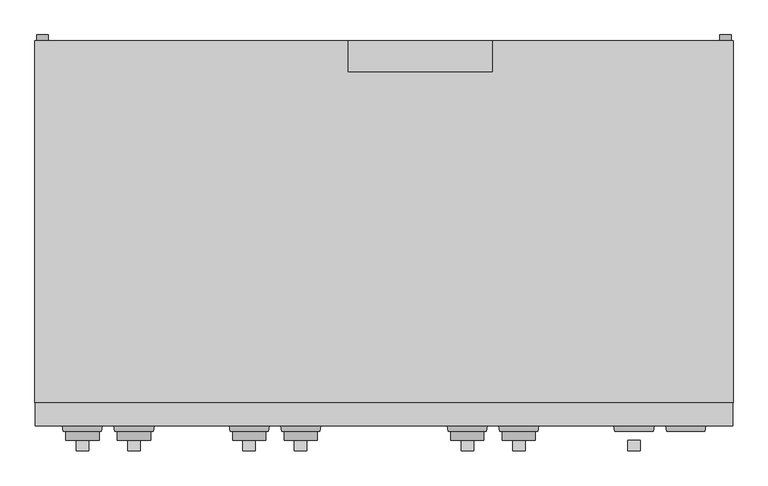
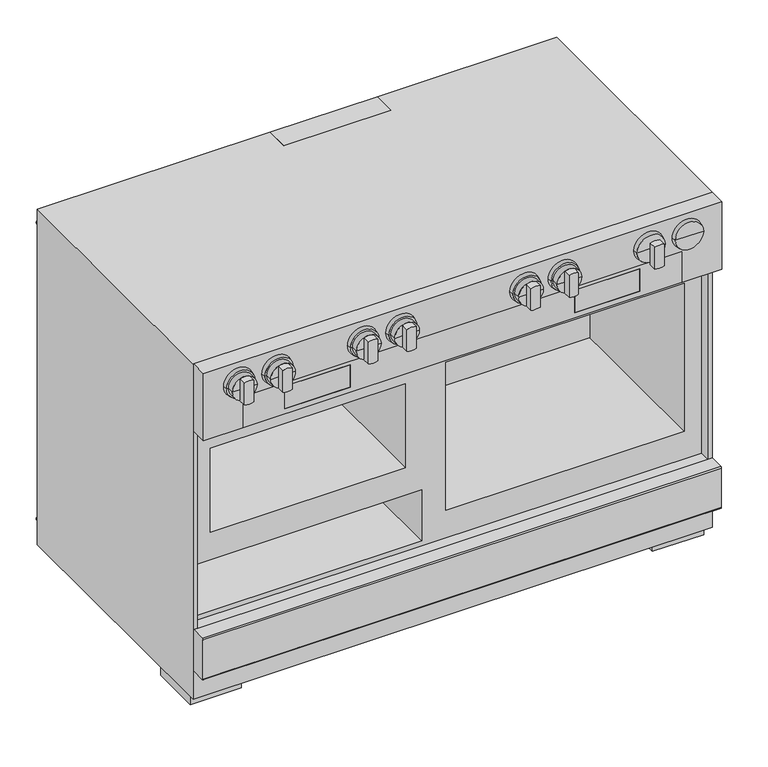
"""IFC4 building model written with IfcOpenShell, lengths in millimetres: proxy geometry, 11791680_USA_HR1954-3LP_EDST-CLS : 25195482_USA_11791680_HR1954-3LP_EDST-CLS."""

from ifc_helpers import new_model, si_unit, point, frame, frame_2d, origin, origin_with_axes, place, context, project, spatial, polyline, circle_curve, trimmed, segment, composite_curve, outline, extrude, faceted_brep, source, transform, mapped, element, save
from ifc_brep_helpers import plane_surface, cylinder_surface, revolved_surface, advanced_brep


def specialty_equipment_3461bd46(model_context):
    return source(origin(), model_context, "Body", "SolidModel", [
        advanced_brep(
        [(235.5, -683.0, 813.0), (264.5, -683.0, 813.0), (206.5, -683.0, 813.0), (206.5, -699.0, 813.0), (264.5, -699.0, 813.0), (235.5, -699.0, 813.0)],
        [
            (0, 1),
            (1, 2, circle_curve(frame((235.5, -683.0, 813.0), z_axis=(0.0, 1.0, 0.0), x_axis=(1.0, 0.0, 0.0)), 29.0)),
            (2, 0),
            (2, 1, circle_curve(frame((235.5, -683.0, 813.0), z_axis=(0.0, 1.0, 0.0), x_axis=(1.0, 0.0, 0.0)), 29.0)),
            (3, 4, circle_curve(frame((235.5, -699.0, 813.0), z_axis=(0.0, -1.0, 0.0), x_axis=(1.0, 0.0, 0.0)), 29.0)),
            (4, 5),
            (5, 3),
            (4, 3, circle_curve(frame((235.5, -699.0, 813.0), z_axis=(0.0, -1.0, 0.0), x_axis=(1.0, 0.0, 0.0)), 29.0)),
            (1, 4),
            (3, 2),
        ],
        [
            plane_surface(frame((235.5, -683.0, 813.0), z_axis=(0.0, 1.0, 0.0), x_axis=(1.0, 0.0, 0.0))),
            plane_surface(frame((235.5, -699.0, 813.0), z_axis=(0.0, -1.0, 0.0), x_axis=(1.0, 0.0, 0.0))),
            cylinder_surface(frame((235.5, 751.3738435, 813.0), z_axis=(0.0, 1.0, 0.0), x_axis=(1.0, 0.0, 0.0)), 29.0),
        ],
        [
            (0, [[1, 2, 3]]),
            (0, [[-3, 4, -1]]),
            (1, [[5, 6, 7]]),
            (1, [[8, -7, -6]]),
            (2, [[-2, 9, -5, 10]]),
            (2, [[-4, -10, -8, -9]]),
        ],
    ),
        advanced_brep(
        [(-235.5, -683.0, 813.0), (-206.5, -683.0, 813.0), (-264.5, -683.0, 813.0), (-264.5, -699.0, 813.0), (-206.5, -699.0, 813.0), (-235.5, -699.0, 813.0)],
        [
            (0, 1),
            (1, 2, circle_curve(frame((-235.5, -683.0, 813.0), z_axis=(0.0, 1.0, 0.0), x_axis=(1.0, 0.0, 0.0)), 29.0)),
            (2, 0),
            (2, 1, circle_curve(frame((-235.5, -683.0, 813.0), z_axis=(0.0, 1.0, 0.0), x_axis=(1.0, 0.0, 0.0)), 29.0)),
            (3, 4, circle_curve(frame((-235.5, -699.0, 813.0), z_axis=(0.0, -1.0, 0.0), x_axis=(1.0, 0.0, 0.0)), 29.0)),
            (4, 5),
            (5, 3),
            (4, 3, circle_curve(frame((-235.5, -699.0, 813.0), z_axis=(0.0, -1.0, 0.0), x_axis=(1.0, 0.0, 0.0)), 29.0)),
            (1, 4),
            (3, 2),
        ],
        [
            plane_surface(frame((-235.5, -683.0, 813.0), z_axis=(0.0, 1.0, 0.0), x_axis=(1.0, 0.0, 0.0))),
            plane_surface(frame((-235.5, -699.0, 813.0), z_axis=(0.0, -1.0, 0.0), x_axis=(1.0, 0.0, 0.0))),
            cylinder_surface(frame((-235.5, 751.3738435, 813.0), z_axis=(0.0, 1.0, 0.0), x_axis=(1.0, 0.0, 0.0)), 29.0),
        ],
        [
            (0, [[1, 2, 3]]),
            (0, [[-3, 4, -1]]),
            (1, [[5, 6, 7]]),
            (1, [[8, -7, -6]]),
            (2, [[-2, 9, -5, 10]]),
            (2, [[-4, -10, -8, -9]]),
        ],
    ),
        advanced_brep(
        [(-436.5, -683.0, 813.0), (-407.5, -683.0, 813.0), (-465.5, -683.0, 813.0), (-465.5, -699.0, 813.0), (-407.5, -699.0, 813.0), (-436.5, -699.0, 813.0)],
        [
            (0, 1),
            (1, 2, circle_curve(frame((-436.5, -683.0, 813.0), z_axis=(0.0, 1.0, 0.0), x_axis=(1.0, 0.0, 0.0)), 29.0)),
            (2, 0),
            (2, 1, circle_curve(frame((-436.5, -683.0, 813.0), z_axis=(0.0, 1.0, 0.0), x_axis=(1.0, 0.0, 0.0)), 29.0)),
            (3, 4, circle_curve(frame((-436.5, -699.0, 813.0), z_axis=(0.0, -1.0, 0.0), x_axis=(1.0, 0.0, 0.0)), 29.0)),
            (4, 5),
            (5, 3),
            (4, 3, circle_curve(frame((-436.5, -699.0, 813.0), z_axis=(0.0, -1.0, 0.0), x_axis=(1.0, 0.0, 0.0)), 29.0)),
            (1, 4),
            (3, 2),
        ],
        [
            plane_surface(frame((-436.5, -683.0, 813.0), z_axis=(0.0, 1.0, 0.0), x_axis=(1.0, 0.0, 0.0))),
            plane_surface(frame((-436.5, -699.0, 813.0), z_axis=(0.0, -1.0, 0.0), x_axis=(1.0, 0.0, 0.0))),
            cylinder_surface(frame((-436.5, 751.3738435, 813.0), z_axis=(0.0, 1.0, 0.0), x_axis=(1.0, 0.0, 0.0)), 29.0),
        ],
        [
            (0, [[1, 2, 3]]),
            (0, [[-3, 4, -1]]),
            (1, [[5, 6, 7]]),
            (1, [[8, -7, -6]]),
            (2, [[-2, 9, -5, 10]]),
            (2, [[-4, -10, -8, -9]]),
        ],
    ),
        advanced_brep(
        [(-526.5, -683.0, 813.0), (-497.5, -683.0, 813.0), (-555.5, -683.0, 813.0), (-555.5, -699.0, 813.0), (-497.5, -699.0, 813.0), (-526.5, -699.0, 813.0)],
        [
            (0, 1),
            (1, 2, circle_curve(frame((-526.5, -683.0, 813.0), z_axis=(0.0, 1.0, 0.0), x_axis=(1.0, 0.0, 0.0)), 29.0)),
            (2, 0),
            (2, 1, circle_curve(frame((-526.5, -683.0, 813.0), z_axis=(0.0, 1.0, 0.0), x_axis=(1.0, 0.0, 0.0)), 29.0)),
            (3, 4, circle_curve(frame((-526.5, -699.0, 813.0), z_axis=(0.0, -1.0, 0.0), x_axis=(1.0, 0.0, 0.0)), 29.0)),
            (4, 5),
            (5, 3),
            (4, 3, circle_curve(frame((-526.5, -699.0, 813.0), z_axis=(0.0, -1.0, 0.0), x_axis=(1.0, 0.0, 0.0)), 29.0)),
            (1, 4),
            (3, 2),
        ],
        [
            plane_surface(frame((-526.5, -683.0, 813.0), z_axis=(0.0, 1.0, 0.0), x_axis=(1.0, 0.0, 0.0))),
            plane_surface(frame((-526.5, -699.0, 813.0), z_axis=(0.0, -1.0, 0.0), x_axis=(1.0, 0.0, 0.0))),
            cylinder_surface(frame((-526.5, 751.3738435, 813.0), z_axis=(0.0, 1.0, 0.0), x_axis=(1.0, 0.0, 0.0)), 29.0),
        ],
        [
            (0, [[1, 2, 3]]),
            (0, [[-3, 4, -1]]),
            (1, [[5, 6, 7]]),
            (1, [[8, -7, -6]]),
            (2, [[-2, 9, -5, 10]]),
            (2, [[-4, -10, -8, -9]]),
        ],
    ),
        extrude(outline(composite_curve([segment(trimmed(circle_curve(frame_2d((813.0, 436.5)), 29.0), [point((786.1671843, 425.5))], [point((786.1671843, 447.5))], False, "CARTESIAN"), True, "CONTINUOUS"), segment(polyline([(786.1671843, 447.5), (839.8328157, 447.5)]), True, "CONTINUOUS"), segment(trimmed(circle_curve(frame_2d((813.0, 436.5)), 29.0), [point((839.8328157, 447.5))], [point((839.8328157, 425.5))], False, "CARTESIAN"), True, "CONTINUOUS"), segment(polyline([(839.8328157, 425.5), (786.1671843, 425.5)]), True, "CONTINUOUS")], self_intersect=False)), frame((0.0, -717.0, 0.0), z_axis=(0.0, 1.0, 0.0), x_axis=(0.0, 0.0, 1.0)), (0.0, 0.0, 1.0), 18.0),
        extrude(outline(composite_curve([segment(polyline([(839.8328157, 224.5), (786.1671843, 224.5)]), True, "CONTINUOUS"), segment(trimmed(circle_curve(frame_2d((813.0, 235.5)), 29.0), [point((786.1671843, 224.5))], [point((786.1671843, 246.5))], False, "CARTESIAN"), True, "CONTINUOUS"), segment(polyline([(786.1671843, 246.5), (839.8328157, 246.5)]), True, "CONTINUOUS"), segment(trimmed(circle_curve(frame_2d((813.0, 235.5)), 29.0), [point((839.8328157, 246.5))], [point((839.8328157, 224.5))], False, "CARTESIAN"), True, "CONTINUOUS")], self_intersect=False)), frame((0.0, -717.0, 0.0), z_axis=(0.0, 1.0, 0.0), x_axis=(0.0, 0.0, 1.0)), (0.0, 0.0, 1.0), 18.0),
        extrude(outline(composite_curve([segment(polyline([(839.8328157, -246.5), (786.1671843, -246.5)]), True, "CONTINUOUS"), segment(trimmed(circle_curve(frame_2d((813.0, -235.5)), 29.0), [point((786.1671843, -246.5))], [point((786.1671843, -224.5))], False, "CARTESIAN"), True, "CONTINUOUS"), segment(polyline([(786.1671843, -224.5), (839.8328157, -224.5)]), True, "CONTINUOUS"), segment(trimmed(circle_curve(frame_2d((813.0, -235.5)), 29.0), [point((839.8328157, -224.5))], [point((839.8328157, -246.5))], False, "CARTESIAN"), True, "CONTINUOUS")], self_intersect=False)), frame((0.0, -717.0, 0.0), z_axis=(0.0, 1.0, 0.0), x_axis=(0.0, 0.0, 1.0)), (0.0, 0.0, 1.0), 18.0),
        extrude(outline(composite_curve([segment(polyline([(839.8328157, -447.5), (786.1671843, -447.5)]), True, "CONTINUOUS"), segment(trimmed(circle_curve(frame_2d((813.0, -436.5)), 29.0), [point((786.1671843, -447.5))], [point((786.1671843, -425.5))], False, "CARTESIAN"), True, "CONTINUOUS"), segment(polyline([(786.1671843, -425.5), (839.8328157, -425.5)]), True, "CONTINUOUS"), segment(trimmed(circle_curve(frame_2d((813.0, -436.5)), 29.0), [point((839.8328157, -425.5))], [point((839.8328157, -447.5))], False, "CARTESIAN"), True, "CONTINUOUS")], self_intersect=False)), frame((0.0, -717.0, 0.0), z_axis=(0.0, 1.0, 0.0), x_axis=(0.0, 0.0, 1.0)), (0.0, 0.0, 1.0), 18.0),
        extrude(outline(composite_curve([segment(polyline([(839.8328157, -537.5), (786.1671843, -537.5)]), True, "CONTINUOUS"), segment(trimmed(circle_curve(frame_2d((813.0, -526.5)), 29.0), [point((786.1671843, -537.5))], [point((786.1671843, -515.5))], False, "CARTESIAN"), True, "CONTINUOUS"), segment(polyline([(786.1671843, -515.5), (839.8328157, -515.5)]), True, "CONTINUOUS"), segment(trimmed(circle_curve(frame_2d((813.0, -526.5)), 29.0), [point((839.8328157, -515.5))], [point((839.8328157, -537.5))], False, "CARTESIAN"), True, "CONTINUOUS")], self_intersect=False)), frame((0.0, -717.0, 0.0), z_axis=(0.0, 1.0, 0.0), x_axis=(0.0, 0.0, 1.0)), (0.0, 0.0, 1.0), 18.0),
        advanced_brep(
        [(145.5, -683.0, 813.0), (174.5, -683.0, 813.0), (116.5, -683.0, 813.0), (116.5, -699.0, 813.0), (174.5, -699.0, 813.0), (145.5, -699.0, 813.0)],
        [
            (0, 1),
            (1, 2, circle_curve(frame((145.5, -683.0, 813.0), z_axis=(0.0, 1.0, 0.0), x_axis=(1.0, 0.0, 0.0)), 29.0)),
            (2, 0),
            (2, 1, circle_curve(frame((145.5, -683.0, 813.0), z_axis=(0.0, 1.0, 0.0), x_axis=(1.0, 0.0, 0.0)), 29.0)),
            (3, 4, circle_curve(frame((145.5, -699.0, 813.0), z_axis=(0.0, -1.0, 0.0), x_axis=(1.0, 0.0, 0.0)), 29.0)),
            (4, 5),
            (5, 3),
            (4, 3, circle_curve(frame((145.5, -699.0, 813.0), z_axis=(0.0, -1.0, 0.0), x_axis=(1.0, 0.0, 0.0)), 29.0)),
            (1, 4),
            (3, 2),
        ],
        [
            plane_surface(frame((145.5, -683.0, 813.0), z_axis=(0.0, 1.0, 0.0), x_axis=(1.0, 0.0, 0.0))),
            plane_surface(frame((145.5, -699.0, 813.0), z_axis=(0.0, -1.0, 0.0), x_axis=(1.0, 0.0, 0.0))),
            cylinder_surface(frame((145.5, 751.3738435, 813.0), z_axis=(0.0, 1.0, 0.0), x_axis=(1.0, 0.0, 0.0)), 29.0),
        ],
        [
            (0, [[1, 2, 3]]),
            (0, [[-3, 4, -1]]),
            (1, [[5, 6, 7]]),
            (1, [[8, -7, -6]]),
            (2, [[-2, 9, -5, 10]]),
            (2, [[-4, -10, -8, -9]]),
        ],
    ),
        advanced_brep(
        [(-145.5, -683.0, 813.0), (-116.5, -683.0, 813.0), (-174.5, -683.0, 813.0), (-174.5, -699.0, 813.0), (-116.5, -699.0, 813.0), (-145.5, -699.0, 813.0)],
        [
            (0, 1),
            (1, 2, circle_curve(frame((-145.5, -683.0, 813.0), z_axis=(0.0, 1.0, 0.0), x_axis=(1.0, 0.0, 0.0)), 29.0)),
            (2, 0),
            (2, 1, circle_curve(frame((-145.5, -683.0, 813.0), z_axis=(0.0, 1.0, 0.0), x_axis=(1.0, 0.0, 0.0)), 29.0)),
            (3, 4, circle_curve(frame((-145.5, -699.0, 813.0), z_axis=(0.0, -1.0, 0.0), x_axis=(1.0, 0.0, 0.0)), 29.0)),
            (4, 5),
            (5, 3),
            (4, 3, circle_curve(frame((-145.5, -699.0, 813.0), z_axis=(0.0, -1.0, 0.0), x_axis=(1.0, 0.0, 0.0)), 29.0)),
            (1, 4),
            (3, 2),
        ],
        [
            plane_surface(frame((-145.5, -683.0, 813.0), z_axis=(0.0, 1.0, 0.0), x_axis=(1.0, 0.0, 0.0))),
            plane_surface(frame((-145.5, -699.0, 813.0), z_axis=(0.0, -1.0, 0.0), x_axis=(1.0, 0.0, 0.0))),
            cylinder_surface(frame((-145.5, 751.3738435, 813.0), z_axis=(0.0, 1.0, 0.0), x_axis=(1.0, 0.0, 0.0)), 29.0),
        ],
        [
            (0, [[1, 2, 3]]),
            (0, [[-3, 4, -1]]),
            (1, [[5, 6, 7]]),
            (1, [[8, -7, -6]]),
            (2, [[-2, 9, -5, 10]]),
            (2, [[-4, -10, -8, -9]]),
        ],
    ),
        extrude(outline(composite_curve([segment(polyline([(839.8328157, -156.5), (786.1671843, -156.5)]), True, "CONTINUOUS"), segment(trimmed(circle_curve(frame_2d((813.0, -145.5)), 29.0), [point((786.1671843, -156.5))], [point((786.1671843, -134.5))], False, "CARTESIAN"), True, "CONTINUOUS"), segment(polyline([(786.1671843, -134.5), (839.8328157, -134.5)]), True, "CONTINUOUS"), segment(trimmed(circle_curve(frame_2d((813.0, -145.5)), 29.0), [point((839.8328157, -134.5))], [point((839.8328157, -156.5))], False, "CARTESIAN"), True, "CONTINUOUS")], self_intersect=False)), frame((0.0, -717.0, 0.0), z_axis=(0.0, 1.0, 0.0), x_axis=(0.0, 0.0, 1.0)), (0.0, 0.0, 1.0), 18.0),
        extrude(outline(composite_curve([segment(polyline([(839.8328157, 134.5), (786.1671843, 134.5)]), True, "CONTINUOUS"), segment(trimmed(circle_curve(frame_2d((813.0, 145.5)), 29.0), [point((786.1671843, 134.5))], [point((786.1671843, 156.5))], False, "CARTESIAN"), True, "CONTINUOUS"), segment(polyline([(786.1671843, 156.5), (839.8328157, 156.5)]), True, "CONTINUOUS"), segment(trimmed(circle_curve(frame_2d((813.0, 145.5)), 29.0), [point((839.8328157, 156.5))], [point((839.8328157, 134.5))], False, "CARTESIAN"), True, "CONTINUOUS")], self_intersect=False)), frame((0.0, -717.0, 0.0), z_axis=(0.0, 1.0, 0.0), x_axis=(0.0, 0.0, 1.0)), (0.0, 0.0, 1.0), 18.0),
        advanced_brep(
        [(493.2632698, -683.0, 813.0), (559.7367302, -683.0, 813.0), (526.5, -683.0, 813.0), (491.5, -673.0, 813.0), (561.5, -673.0, 813.0), (526.5, -673.0, 813.0)],
        [
            (0, 1, circle_curve(frame((526.5, -683.0, 813.0), z_axis=(0.0, -1.0, 0.0), x_axis=(1.0, 0.0, 0.0)), 33.2367302)),
            (1, 2),
            (2, 0),
            (1, 0, circle_curve(frame((526.5, -683.0, 813.0), z_axis=(0.0, -1.0, 0.0), x_axis=(1.0, 0.0, 0.0)), 33.2367302)),
            (3, 4, circle_curve(frame((526.5, -673.0, 813.0), z_axis=(0.0, -1.0, 0.0), x_axis=(1.0, 0.0, 0.0)), 35.0)),
            (4, 1),
            (0, 3),
            (4, 3, circle_curve(frame((526.5, -673.0, 813.0), z_axis=(0.0, -1.0, 0.0), x_axis=(1.0, 0.0, 0.0)), 35.0)),
            (5, 4),
            (3, 5),
        ],
        [
            plane_surface(frame((526.5, -683.0, 813.0), z_axis=(0.0, -1.0, 0.0), x_axis=(1.0, 0.0, 0.0))),
            revolved_surface(polyline([(559.7367302, -683.0, 813.0), (561.5, -673.0, 813.0)]), (526.5, 751.3738435, 813.0), (0.0, 1.0, 0.0)),
            plane_surface(frame((526.5, -673.0, 813.0), z_axis=(0.0, 1.0, 0.0), x_axis=(1.0, 0.0, 0.0))),
        ],
        [
            (0, [[1, 2, 3]]),
            (0, [[4, -3, -2]]),
            (1, [[5, 6, -1, 7]]),
            (1, [[8, -7, -4, -6]]),
            (2, [[9, -5, 10]]),
            (2, [[-10, -8, -9]]),
        ],
    ),
        advanced_brep(
        [(403.2632698, -683.0, 813.0), (469.7367302, -683.0, 813.0), (436.5, -683.0, 813.0), (401.5, -673.0, 813.0), (471.5, -673.0, 813.0), (436.5, -673.0, 813.0)],
        [
            (0, 1, circle_curve(frame((436.5, -683.0, 813.0), z_axis=(0.0, -1.0, 0.0), x_axis=(1.0, 0.0, 0.0)), 33.2367302)),
            (1, 2),
            (2, 0),
            (1, 0, circle_curve(frame((436.5, -683.0, 813.0), z_axis=(0.0, -1.0, 0.0), x_axis=(1.0, 0.0, 0.0)), 33.2367302)),
            (3, 4, circle_curve(frame((436.5, -673.0, 813.0), z_axis=(0.0, -1.0, 0.0), x_axis=(1.0, 0.0, 0.0)), 35.0)),
            (4, 1),
            (0, 3),
            (4, 3, circle_curve(frame((436.5, -673.0, 813.0), z_axis=(0.0, -1.0, 0.0), x_axis=(1.0, 0.0, 0.0)), 35.0)),
            (5, 4),
            (3, 5),
        ],
        [
            plane_surface(frame((436.5, -683.0, 813.0), z_axis=(0.0, -1.0, 0.0), x_axis=(1.0, 0.0, 0.0))),
            revolved_surface(polyline([(469.7367302, -683.0, 813.0), (471.5, -673.0, 813.0)]), (436.5, 751.3738435, 813.0), (0.0, 1.0, 0.0)),
            plane_surface(frame((436.5, -673.0, 813.0), z_axis=(0.0, 1.0, 0.0), x_axis=(1.0, 0.0, 0.0))),
        ],
        [
            (0, [[1, 2, 3]]),
            (0, [[4, -3, -2]]),
            (1, [[5, 6, -1, 7]]),
            (1, [[8, -7, -4, -6]]),
            (2, [[9, -5, 10]]),
            (2, [[-10, -8, -9]]),
        ],
    ),
        advanced_brep(
        [(202.2632698, -683.0, 813.0), (268.7367302, -683.0, 813.0), (235.5, -683.0, 813.0), (200.5, -673.0, 813.0), (270.5, -673.0, 813.0), (235.5, -673.0, 813.0)],
        [
            (0, 1, circle_curve(frame((235.5, -683.0, 813.0), z_axis=(0.0, -1.0, 0.0), x_axis=(1.0, 0.0, 0.0)), 33.2367302)),
            (1, 2),
            (2, 0),
            (1, 0, circle_curve(frame((235.5, -683.0, 813.0), z_axis=(0.0, -1.0, 0.0), x_axis=(1.0, 0.0, 0.0)), 33.2367302)),
            (3, 4, circle_curve(frame((235.5, -673.0, 813.0), z_axis=(0.0, -1.0, 0.0), x_axis=(1.0, 0.0, 0.0)), 35.0)),
            (4, 1),
            (0, 3),
            (4, 3, circle_curve(frame((235.5, -673.0, 813.0), z_axis=(0.0, -1.0, 0.0), x_axis=(1.0, 0.0, 0.0)), 35.0)),
            (5, 4),
            (3, 5),
        ],
        [
            plane_surface(frame((235.5, -683.0, 813.0), z_axis=(0.0, -1.0, 0.0), x_axis=(1.0, 0.0, 0.0))),
            revolved_surface(polyline([(268.7367302, -683.0, 813.0), (270.5, -673.0, 813.0)]), (235.5, 751.3738435, 813.0), (0.0, 1.0, 0.0)),
            plane_surface(frame((235.5, -673.0, 813.0), z_axis=(0.0, 1.0, 0.0), x_axis=(1.0, 0.0, 0.0))),
        ],
        [
            (0, [[1, 2, 3]]),
            (0, [[4, -3, -2]]),
            (1, [[5, 6, -1, 7]]),
            (1, [[8, -7, -4, -6]]),
            (2, [[9, -5, 10]]),
            (2, [[-10, -8, -9]]),
        ],
    ),
        advanced_brep(
        [(-469.7367302, -683.0, 813.0), (-403.2632698, -683.0, 813.0), (-436.5, -683.0, 813.0), (-471.5, -673.0, 813.0), (-401.5, -673.0, 813.0), (-436.5, -673.0, 813.0)],
        [
            (0, 1, circle_curve(frame((-436.5, -683.0, 813.0), z_axis=(0.0, -1.0, 0.0), x_axis=(1.0, 0.0, 0.0)), 33.2367302)),
            (1, 2),
            (2, 0),
            (1, 0, circle_curve(frame((-436.5, -683.0, 813.0), z_axis=(0.0, -1.0, 0.0), x_axis=(1.0, 0.0, 0.0)), 33.2367302)),
            (3, 4, circle_curve(frame((-436.5, -673.0, 813.0), z_axis=(0.0, -1.0, 0.0), x_axis=(1.0, 0.0, 0.0)), 35.0)),
            (4, 1),
            (0, 3),
            (4, 3, circle_curve(frame((-436.5, -673.0, 813.0), z_axis=(0.0, -1.0, 0.0), x_axis=(1.0, 0.0, 0.0)), 35.0)),
            (5, 4),
            (3, 5),
        ],
        [
            plane_surface(frame((-436.5, -683.0, 813.0), z_axis=(0.0, -1.0, 0.0), x_axis=(1.0, 0.0, 0.0))),
            revolved_surface(polyline([(-403.2632698, -683.0, 813.0), (-401.5, -673.0, 813.0)]), (-436.5, 751.3738435, 813.0), (0.0, 1.0, 0.0)),
            plane_surface(frame((-436.5, -673.0, 813.0), z_axis=(0.0, 1.0, 0.0), x_axis=(1.0, 0.0, 0.0))),
        ],
        [
            (0, [[1, 2, 3]]),
            (0, [[4, -3, -2]]),
            (1, [[5, 6, -1, 7]]),
            (1, [[8, -7, -4, -6]]),
            (2, [[9, -5, 10]]),
            (2, [[-10, -8, -9]]),
        ],
    ),
        advanced_brep(
        [(-559.7367302, -683.0, 813.0), (-493.2632698, -683.0, 813.0), (-526.5, -683.0, 813.0), (-561.5, -673.0, 813.0), (-491.5, -673.0, 813.0), (-526.5, -673.0, 813.0)],
        [
            (0, 1, circle_curve(frame((-526.5, -683.0, 813.0), z_axis=(0.0, -1.0, 0.0), x_axis=(1.0, 0.0, 0.0)), 33.2367302)),
            (1, 2),
            (2, 0),
            (1, 0, circle_curve(frame((-526.5, -683.0, 813.0), z_axis=(0.0, -1.0, 0.0), x_axis=(1.0, 0.0, 0.0)), 33.2367302)),
            (3, 4, circle_curve(frame((-526.5, -673.0, 813.0), z_axis=(0.0, -1.0, 0.0), x_axis=(1.0, 0.0, 0.0)), 35.0)),
            (4, 1),
            (0, 3),
            (4, 3, circle_curve(frame((-526.5, -673.0, 813.0), z_axis=(0.0, -1.0, 0.0), x_axis=(1.0, 0.0, 0.0)), 35.0)),
            (5, 4),
            (3, 5),
        ],
        [
            plane_surface(frame((-526.5, -683.0, 813.0), z_axis=(0.0, -1.0, 0.0), x_axis=(1.0, 0.0, 0.0))),
            revolved_surface(polyline([(-493.2632698, -683.0, 813.0), (-491.5, -673.0, 813.0)]), (-526.5, 751.3738435, 813.0), (0.0, 1.0, 0.0)),
            plane_surface(frame((-526.5, -673.0, 813.0), z_axis=(0.0, 1.0, 0.0), x_axis=(1.0, 0.0, 0.0))),
        ],
        [
            (0, [[1, 2, 3]]),
            (0, [[4, -3, -2]]),
            (1, [[5, 6, -1, 7]]),
            (1, [[8, -7, -4, -6]]),
            (2, [[9, -5, 10]]),
            (2, [[-10, -8, -9]]),
        ],
    ),
        advanced_brep(
        [(-268.7367302, -683.0, 813.0), (-202.2632698, -683.0, 813.0), (-235.5, -683.0, 813.0), (-270.5, -673.0, 813.0), (-200.5, -673.0, 813.0), (-235.5, -673.0, 813.0)],
        [
            (0, 1, circle_curve(frame((-235.5, -683.0, 813.0), z_axis=(0.0, -1.0, 0.0), x_axis=(1.0, 0.0, 0.0)), 33.2367302)),
            (1, 2),
            (2, 0),
            (1, 0, circle_curve(frame((-235.5, -683.0, 813.0), z_axis=(0.0, -1.0, 0.0), x_axis=(1.0, 0.0, 0.0)), 33.2367302)),
            (3, 4, circle_curve(frame((-235.5, -673.0, 813.0), z_axis=(0.0, -1.0, 0.0), x_axis=(1.0, 0.0, 0.0)), 35.0)),
            (4, 1),
            (0, 3),
            (4, 3, circle_curve(frame((-235.5, -673.0, 813.0), z_axis=(0.0, -1.0, 0.0), x_axis=(1.0, 0.0, 0.0)), 35.0)),
            (5, 4),
            (3, 5),
        ],
        [
            plane_surface(frame((-235.5, -683.0, 813.0), z_axis=(0.0, -1.0, 0.0), x_axis=(1.0, 0.0, 0.0))),
            revolved_surface(polyline([(-202.2632698, -683.0, 813.0), (-200.5, -673.0, 813.0)]), (-235.5, 751.3738435, 813.0), (0.0, 1.0, 0.0)),
            plane_surface(frame((-235.5, -673.0, 813.0), z_axis=(0.0, 1.0, 0.0), x_axis=(1.0, 0.0, 0.0))),
        ],
        [
            (0, [[1, 2, 3]]),
            (0, [[4, -3, -2]]),
            (1, [[5, 6, -1, 7]]),
            (1, [[8, -7, -4, -6]]),
            (2, [[9, -5, 10]]),
            (2, [[-10, -8, -9]]),
        ],
    ),
        advanced_brep(
        [(112.2632698, -683.0, 813.0), (178.7367302, -683.0, 813.0), (145.5, -683.0, 813.0), (110.5, -673.0, 813.0), (180.5, -673.0, 813.0), (145.5, -673.0, 813.0)],
        [
            (0, 1, circle_curve(frame((145.5, -683.0, 813.0), z_axis=(0.0, -1.0, 0.0), x_axis=(1.0, 0.0, 0.0)), 33.2367302)),
            (1, 2),
            (2, 0),
            (1, 0, circle_curve(frame((145.5, -683.0, 813.0), z_axis=(0.0, -1.0, 0.0), x_axis=(1.0, 0.0, 0.0)), 33.2367302)),
            (3, 4, circle_curve(frame((145.5, -673.0, 813.0), z_axis=(0.0, -1.0, 0.0), x_axis=(1.0, 0.0, 0.0)), 35.0)),
            (4, 1),
            (0, 3),
            (4, 3, circle_curve(frame((145.5, -673.0, 813.0), z_axis=(0.0, -1.0, 0.0), x_axis=(1.0, 0.0, 0.0)), 35.0)),
            (5, 4),
            (3, 5),
        ],
        [
            plane_surface(frame((145.5, -683.0, 813.0), z_axis=(0.0, -1.0, 0.0), x_axis=(1.0, 0.0, 0.0))),
            revolved_surface(polyline([(178.7367302, -683.0, 813.0), (180.5, -673.0, 813.0)]), (145.5, 751.3738435, 813.0), (0.0, 1.0, 0.0)),
            plane_surface(frame((145.5, -673.0, 813.0), z_axis=(0.0, 1.0, 0.0), x_axis=(1.0, 0.0, 0.0))),
        ],
        [
            (0, [[1, 2, 3]]),
            (0, [[4, -3, -2]]),
            (1, [[5, 6, -1, 7]]),
            (1, [[8, -7, -4, -6]]),
            (2, [[9, -5, 10]]),
            (2, [[-10, -8, -9]]),
        ],
    ),
        advanced_brep(
        [(-178.7367302, -683.0, 813.0), (-112.2632698, -683.0, 813.0), (-145.5, -683.0, 813.0), (-180.5, -673.0, 813.0), (-110.5, -673.0, 813.0), (-145.5, -673.0, 813.0)],
        [
            (0, 1, circle_curve(frame((-145.5, -683.0, 813.0), z_axis=(0.0, -1.0, 0.0), x_axis=(1.0, 0.0, 0.0)), 33.2367302)),
            (1, 2),
            (2, 0),
            (1, 0, circle_curve(frame((-145.5, -683.0, 813.0), z_axis=(0.0, -1.0, 0.0), x_axis=(1.0, 0.0, 0.0)), 33.2367302)),
            (3, 4, circle_curve(frame((-145.5, -673.0, 813.0), z_axis=(0.0, -1.0, 0.0), x_axis=(1.0, 0.0, 0.0)), 35.0)),
            (4, 1),
            (0, 3),
            (4, 3, circle_curve(frame((-145.5, -673.0, 813.0), z_axis=(0.0, -1.0, 0.0), x_axis=(1.0, 0.0, 0.0)), 35.0)),
            (5, 4),
            (3, 5),
        ],
        [
            plane_surface(frame((-145.5, -683.0, 813.0), z_axis=(0.0, -1.0, 0.0), x_axis=(1.0, 0.0, 0.0))),
            revolved_surface(polyline([(-112.2632698, -683.0, 813.0), (-110.5, -673.0, 813.0)]), (-145.5, 751.3738435, 813.0), (0.0, 1.0, 0.0)),
            plane_surface(frame((-145.5, -673.0, 813.0), z_axis=(0.0, 1.0, 0.0), x_axis=(1.0, 0.0, 0.0))),
        ],
        [
            (0, [[1, 2, 3]]),
            (0, [[4, -3, -2]]),
            (1, [[5, 6, -1, 7]]),
            (1, [[8, -7, -4, -6]]),
            (2, [[9, -5, 10]]),
            (2, [[-10, -8, -9]]),
        ],
    ),
        faceted_brep([(608.5, -673.0, 862.0), (-608.5, -673.0, 862.0), (-608.5, -673.0, 695.0), (-515.5, -673.0, 695.0), (-515.5, -673.0, 772.0), (515.5, -673.0, 772.0), (515.5, -673.0, 695.0), (608.5, -673.0, 695.0), (608.5, -633.0, 862.0), (608.5, -633.0, 695.0), (-608.5, -633.0, 695.0), (-608.5, -633.0, 862.0), (515.5, -666.7, 695.0), (-515.5, -666.7, 695.0), (515.5, -666.7, 772.0), (-515.5, -666.7, 772.0)], [[[0, 1, 2, 3, 4, 5, 6, 7]], [[8, 9, 10, 11]], [[0, 7, 9, 8]], [[10, 9, 7, 6, 12, 13, 3, 2]], [[2, 1, 11, 10]], [[1, 0, 8, 11]], [[14, 15, 13, 12]], [[14, 12, 6, 5]], [[13, 15, 4, 3]], [[15, 14, 5, 4]]]),
        extrude(outline(polyline([(772.0, 515.5), (772.0, -515.5), (695.0, -515.5), (695.0, 515.5), (772.0, 515.5)]), holes=[polyline([(763.0, -263.5), (707.0, -263.5), (707.0, -416.5), (763.0, -416.5), (763.0, -263.5)]), polyline([(763.0, 416.5), (707.0, 416.5), (707.0, 263.5), (763.0, 263.5), (763.0, 416.5)])]), frame((0.0, -671.7, 0.0), z_axis=(0.0, 1.0, 0.0), x_axis=(0.0, 0.0, 1.0)), (0.0, 0.0, 1.0), 5.0),
        extrude(outline(polyline([(-263.5, -671.7), (-416.5, -671.7), (-416.5, -670.7), (-263.5, -670.7), (-263.5, -671.7)])), frame((0.0, 0.0, 707.0), z_axis=(0.0, 0.0, 1.0), x_axis=(1.0, 0.0, 0.0)), (0.0, 0.0, 1.0), 56.0),
        extrude(outline(polyline([(416.5, -671.7), (263.5, -671.7), (263.5, -670.7), (416.5, -670.7), (416.5, -671.7)])), frame((0.0, 0.0, 707.0), z_axis=(0.0, 0.0, 1.0), x_axis=(1.0, 0.0, 0.0)), (0.0, 0.0, 1.0), 56.0),
        extrude(outline(polyline([(-482.5, -489.0), (-482.5, -609.0), (-602.5, -609.0), (-602.5, -489.0), (-482.5, -489.0)])), origin_with_axes(), (0.0, 0.0, 1.0), 30.0),
        extrude(outline(polyline([(602.5, -489.0), (602.5, -609.0), (482.5, -609.0), (482.5, -489.0), (602.5, -489.0)])), origin_with_axes(), (0.0, 0.0, 1.0), 30.0),
        extrude(outline(composite_curve([segment(trimmed(circle_curve(frame_2d((-152.0, 40.0)), 40.0), [point((-113.2701665, 30.0))], [point((-190.7298335, 30.0))], False, "CARTESIAN"), True, "CONTINUOUS"), segment(polyline([(-190.7298335, 30.0), (-113.2701665, 30.0)]), True, "CONTINUOUS")], self_intersect=False)), frame((434.5, 0.0, 0.0), z_axis=(1.0, 0.0, 0.0), x_axis=(0.0, 1.0, 0.0)), (0.0, 0.0, 1.0), 28.0),
        faceted_brep([(-609.5, 0.0, 862.0), (-609.5, -633.0, 862.0), (609.5, -633.0, 862.0), (609.5, 0.0, 862.0), (189.5, 0.0, 862.0), (189.5, -55.0, 862.0), (-63.5, -55.0, 862.0), (-63.5, 0.0, 862.0), (609.5, 0.0, 30.0), (609.5, -633.0, 30.0), (-609.5, -633.0, 30.0), (-609.5, 0.0, 30.0), (-598.5, 0.0, 30.0), (-598.5, -77.0, 30.0), (598.5, -77.0, 30.0), (598.5, 0.0, 30.0), (598.5, 0.0, 105.0), (189.5, 0.0, 105.0), (-63.5, 0.0, 105.0), (-459.5, 0.0, 105.0), (-459.5, 0.0, 784.0), (-547.5, 0.0, 784.0), (-547.5, 0.0, 105.0), (-598.5, 0.0, 105.0), (598.5, -633.0, 695.0), (598.5, -633.0, 203.0), (-598.5, -633.0, 203.0), (-598.5, -633.0, 695.0), (598.5, -608.0, 695.0), (-598.5, -608.0, 695.0), (-598.5, -608.0, 203.0), (598.5, -608.0, 203.0), (557.5, -608.0, 639.0), (557.5, -608.0, 271.0), (-2.5, -608.0, 271.0), (-2.5, -608.0, 639.0), (-58.5, -608.0, 342.0), (-58.5, -608.0, 215.0), (-592.5, -608.0, 215.0), (-592.5, -608.0, 342.0), (-96.5, -608.0, 618.0), (-96.5, -608.0, 410.0), (-554.5, -608.0, 410.0), (-554.5, -608.0, 618.0), (557.5, -224.0, 639.0), (-2.5, -224.0, 639.0), (-2.5, -224.0, 271.0), (557.5, -224.0, 271.0), (-96.5, -235.0, 618.0), (-554.5, -235.0, 618.0), (-554.5, -235.0, 410.0), (-96.5, -235.0, 410.0), (-58.5, -95.0, 342.0), (-592.5, -95.0, 342.0), (-592.5, -95.0, 215.0), (-58.5, -95.0, 215.0), (-598.5, -77.0, 105.0), (598.5, -77.0, 105.0), (-547.5, -55.0, 105.0), (-459.5, -55.0, 105.0), (-63.5, -55.0, 105.0), (189.5, -55.0, 105.0), (-547.5, -55.0, 784.0), (-459.5, -55.0, 784.0)], [[[0, 1, 2, 3, 4, 5, 6, 7]], [[8, 9, 10, 11, 12, 13, 14, 15]], [[3, 8, 15, 16, 17, 4]], [[11, 0, 7, 18, 19, 20, 21, 22, 23, 12]], [[1, 0, 11, 10]], [[2, 1, 10, 9], [24, 25, 26, 27]], [[3, 2, 9, 8]], [[28, 29, 30, 31], [32, 33, 34, 35], [36, 37, 38, 39], [40, 41, 42, 43]], [[28, 31, 25, 24]], [[31, 30, 26, 25]], [[30, 29, 27, 26]], [[29, 28, 24, 27]], [[44, 45, 46, 47]], [[44, 47, 33, 32]], [[47, 46, 34, 33]], [[46, 45, 35, 34]], [[45, 44, 32, 35]], [[48, 49, 50, 51]], [[51, 50, 42, 41]], [[50, 49, 43, 42]], [[49, 48, 40, 43]], [[52, 53, 54, 55]], [[52, 55, 37, 36]], [[55, 54, 38, 37]], [[54, 53, 39, 38]], [[53, 52, 36, 39]], [[56, 57, 14, 13]], [[57, 56, 23, 22, 58, 59, 19, 18, 60, 61, 17, 16]], [[57, 16, 15, 14]], [[23, 56, 13, 12]], [[62, 63, 59, 58]], [[5, 61, 60, 6]], [[6, 60, 18, 7]], [[63, 62, 21, 20]], [[63, 20, 19, 59]], [[21, 62, 58, 22]], [[61, 5, 4, 17]], [[48, 51, 41, 40]]]),
        extrude(outline(composite_curve([segment(trimmed(circle_curve(frame_2d((761.0, -19.5)), 7.5), [point((761.0, -12.0))], [point((761.0, -27.0))], False, "CARTESIAN"), True, "CONTINUOUS"), segment(trimmed(circle_curve(frame_2d((761.0, -19.5)), 7.5), [point((761.0, -27.0))], [point((761.0, -12.0))], False, "CARTESIAN"), True, "CONTINUOUS")], self_intersect=False)), frame((0.0, -55.0, 0.0), z_axis=(0.0, 1.0, 0.0), x_axis=(0.0, 0.0, 1.0)), (0.0, 0.0, 1.0), 30.0),
        extrude(outline(polyline([(756.0, -8.9829639), (766.0509015, -8.9829639), (766.0509015, -10.2409127), (761.1386151, -10.2409127), (766.0475587, -15.3904554), (766.0475587, -17.1455728), (761.9164775, -12.8179994), (756.0, -17.3019347), (756.0, -15.7701694), (761.0664133, -11.9304743), (759.4465471, -10.2392234), (756.0, -10.2392234), (756.0, -8.9829639)])), frame((0.0, -25.0, 0.0), z_axis=(0.0, 1.0, 0.0), x_axis=(0.0, 0.0, 1.0)), (0.0, 0.0, 1.0), 1.0),
        extrude(outline(polyline([(755.9900117, -20.0376107), (766.0405487, -17.3032463), (766.0405487, -18.6010309), (757.3952189, -20.6941056), (766.0411296, -23.1946617), (766.0411296, -25.0615338), (757.4117226, -27.5845612), (766.0419182, -29.665026), (766.0419182, -30.9626989), (755.9984871, -28.2244126), (755.9984871, -26.8735976), (764.8308623, -24.1286268), (755.9900117, -21.5716905), (755.9900117, -20.0376107)])), frame((0.0, -25.0, 0.0), z_axis=(0.0, 1.0, 0.0), x_axis=(0.0, 0.0, 1.0)), (0.0, 0.0, 1.0), 1.0),
        extrude(outline(composite_curve([segment(trimmed(circle_curve(frame_2d((-514.5, -32.0)), 7.5), [point((-522.0, -32.0))], [point((-507.0, -32.0))], False, "CARTESIAN"), True, "CONTINUOUS"), segment(trimmed(circle_curve(frame_2d((-514.5, -32.0)), 7.5), [point((-507.0, -32.0))], [point((-522.0, -32.0))], False, "CARTESIAN"), True, "CONTINUOUS")], self_intersect=False)), frame((0.0, 0.0, 754.0), z_axis=(0.0, 0.0, 1.0), x_axis=(1.0, 0.0, 0.0)), (0.0, 0.0, 1.0), 30.0),
        extrude(outline(composite_curve([segment(trimmed(circle_curve(frame_2d((417.5, -39.0)), 7.5), [point((417.5, -46.5))], [point((417.5, -31.5))], False, "CARTESIAN"), True, "CONTINUOUS"), segment(trimmed(circle_curve(frame_2d((417.5, -39.0)), 7.5), [point((417.5, -31.5))], [point((417.5, -46.5))], False, "CARTESIAN"), True, "CONTINUOUS")], self_intersect=False)), frame((0.0, 0.0, 75.0), z_axis=(0.0, 0.0, 1.0), x_axis=(1.0, 0.0, 0.0)), (0.0, 0.0, 1.0), 30.0),
        extrude(outline(polyline([(424.9261097, -43.2846028), (417.6553153, -43.2846028), (417.6553153, -42.0259878), (423.6324687, -42.0259878), (423.6324687, -39.0398896), (417.9699511, -39.0398896), (417.9699511, -37.7868997), (423.6324687, -37.7868997), (423.6324687, -34.484481), (417.5234692, -34.484481), (417.5234692, -33.223126), (424.9261097, -33.223126), (424.9261097, -43.2846028)])), frame((0.0, 0.0, 74.0), z_axis=(0.0, 0.0, 1.0), x_axis=(1.0, 0.0, 0.0)), (0.0, 0.0, 1.0), 1.0),
        extrude(outline(polyline([(415.5939455, -43.2781045), (409.4083542, -43.2781045), (409.4083542, -42.0259878), (414.4083542, -42.0259878), (414.4083542, -33.223126), (415.5939455, -33.223126), (415.5939455, -43.2781045)])), frame((0.0, 0.0, 74.0), z_axis=(0.0, 0.0, 1.0), x_axis=(1.0, 0.0, 0.0)), (0.0, 0.0, 1.0), 1.0),
        extrude(outline(composite_curve([segment(polyline([(-633.0, 203.0), (-633.0, 100.0), (-668.0, 100.0)]), True, "CONTINUOUS"), segment(trimmed(circle_curve(frame_2d((-668.0, 103.0)), 3.0), [point((-668.0, 100.0))], [point((-671.0, 103.0))], False, "CARTESIAN"), True, "CONTINUOUS"), segment(polyline([(-671.0, 103.0), (-671.0, 200.0)]), True, "CONTINUOUS"), segment(trimmed(circle_curve(frame_2d((-668.0, 200.0)), 3.0), [point((-671.0, 200.0))], [point((-668.0, 203.0))], False, "CARTESIAN"), True, "CONTINUOUS"), segment(polyline([(-668.0, 203.0), (-633.0, 203.0)]), True, "CONTINUOUS")], self_intersect=False)), frame((-608.5, 0.0, 0.0), z_axis=(1.0, 0.0, 0.0), x_axis=(0.0, 1.0, 0.0)), (0.0, 0.0, 1.0), 1217.0),
        extrude(outline(composite_curve([segment(polyline([(-511.5941465, -31.8216074), (-507.5193946, -31.8216074), (-507.5193946, -33.0727848), (-510.3300756, -33.0727848), (-510.3300756, -34.8953779), (-509.0547934, -35.5734575), (-507.3554891, -35.8730907)]), True, "CONTINUOUS"), segment(trimmed(circle_curve(frame_2d((-507.2763582, -32.1835188)), 3.6904203), [point((-507.3554891, -35.8730907))], [point((-503.5917956, -31.975672))], True, "CARTESIAN"), True, "CONTINUOUS"), segment(trimmed(circle_curve(frame_2d((-507.7742118, -32.2116028)), 4.1890654), [point((-503.5917956, -31.975672))], [point((-507.3924604, -28.0399683))], True, "CARTESIAN"), True, "CONTINUOUS"), segment(trimmed(circle_curve(frame_2d((-507.6434541, -30.7827322)), 2.7542243), [point((-507.3924604, -28.0399683))], [point((-509.7311401, -28.9862582))], True, "CARTESIAN"), True, "CONTINUOUS"), segment(polyline([(-509.7311401, -28.9862582), (-510.2913432, -30.1348449), (-511.4545959, -29.808521), (-510.7222817, -28.1459412)]), True, "CONTINUOUS"), segment(trimmed(circle_curve(frame_2d((-507.5056573, -31.3038983)), 4.5077007), [point((-510.7222817, -28.1459412))], [point((-507.3478593, -26.7989604))], False, "CARTESIAN"), True, "CONTINUOUS"), segment(trimmed(circle_curve(frame_2d((-507.5297107, -32.0029797)), 5.2071956), [point((-507.3478593, -26.7989604))], [point((-502.3225151, -32.0029797))], False, "CARTESIAN"), True, "CONTINUOUS"), segment(trimmed(circle_curve(frame_2d((-507.5187023, -31.9634409)), 5.1963376), [point((-502.3225151, -32.0029797))], [point((-507.5187023, -37.1597785))], False, "CARTESIAN"), True, "CONTINUOUS"), segment(polyline([(-507.5187023, -37.1597785), (-509.5821579, -36.7823822), (-511.5941465, -35.5734575), (-511.5941465, -31.8216074)]), True, "CONTINUOUS")], self_intersect=False)), frame((0.0, 0.0, 753.0), z_axis=(0.0, 0.0, 1.0), x_axis=(1.0, 0.0, 0.0)), (0.0, 0.0, 1.0), 1.0),
        extrude(outline(composite_curve([segment(polyline([(-521.9581842, -34.6489066), (-520.702206, -34.8031213), (-521.6593436, -36.5606642)]), True, "CONTINUOUS"), segment(trimmed(circle_curve(frame_2d((-523.8057471, -33.6354063)), 3.6282478), [point((-521.6593436, -36.5606642))], [point((-525.3962663, -36.8964538))], False, "CARTESIAN"), True, "CONTINUOUS"), segment(trimmed(circle_curve(frame_2d((-524.2731504, -34.593725)), 2.5620205), [point((-525.3962663, -36.8964538))], [point((-526.82893, -34.7724425))], False, "CARTESIAN"), True, "CONTINUOUS"), segment(trimmed(circle_curve(frame_2d((-525.117737, -34.6527843)), 1.7153715), [point((-526.82893, -34.7724425))], [point((-525.647816, -33.021369))], False, "CARTESIAN"), True, "CONTINUOUS"), segment(polyline([(-525.647816, -33.021369), (-523.8069947, -32.4232499), (-522.487673, -30.9770867)]), True, "CONTINUOUS"), segment(trimmed(circle_curve(frame_2d((-523.6408399, -33.351197)), 2.6393548), [point((-522.487673, -30.9770867))], [point((-524.7940069, -30.9770867))], True, "CARTESIAN"), True, "CONTINUOUS"), segment(polyline([(-524.7940069, -30.9770867), (-525.2553884, -31.6611129), (-526.5084996, -31.5072502), (-526.0756304, -30.3795875)]), True, "CONTINUOUS"), segment(trimmed(circle_curve(frame_2d((-523.4527143, -33.6576461)), 4.1982564), [point((-526.0756304, -30.3795875))], [point((-523.5505395, -29.4605295))], False, "CARTESIAN"), True, "CONTINUOUS"), segment(trimmed(circle_curve(frame_2d((-523.4805679, -32.4626064)), 3.0028922), [point((-523.5505395, -29.4605295))], [point((-521.0718203, -30.6694816))], False, "CARTESIAN"), True, "CONTINUOUS"), segment(trimmed(circle_curve(frame_2d((-522.9380028, -31.5301363)), 2.0550823), [point((-521.0718203, -30.6694816))], [point((-521.9341096, -33.323335))], False, "CARTESIAN"), True, "CONTINUOUS"), segment(polyline([(-521.9341096, -33.323335), (-523.8494535, -33.9828408), (-525.5597255, -34.9076387), (-525.1768706, -35.6156702)]), True, "CONTINUOUS"), segment(trimmed(circle_curve(frame_2d((-523.8695779, -32.6018954)), 3.2850956), [point((-525.1768706, -35.6156702))], [point((-522.5622852, -35.6156702))], True, "CARTESIAN"), True, "CONTINUOUS"), segment(polyline([(-522.5622852, -35.6156702), (-521.9581842, -34.6489066)]), True, "CONTINUOUS")], self_intersect=False)), frame((0.0, 0.0, 753.0), z_axis=(0.0, 0.0, 1.0), x_axis=(1.0, 0.0, 0.0)), (0.0, 0.0, 1.0), 1.0),
        extrude(outline(composite_curve([segment(polyline([(-518.5009008, -37.0), (-519.7635363, -37.0), (-519.5191787, -35.9415709), (-519.3778726, -31.1117735)]), True, "CONTINUOUS"), segment(trimmed(circle_curve(frame_2d((-517.887549, -31.1553762)), 1.4909613), [point((-519.3778726, -31.1117735))], [point((-518.1381402, -29.6856246))], False, "CARTESIAN"), True, "CONTINUOUS"), segment(trimmed(circle_curve(frame_2d((-516.6175682, -34.7832301)), 5.3195602), [point((-518.1381402, -29.6856246))], [point((-514.940667, -29.7348914))], False, "CARTESIAN"), True, "CONTINUOUS"), segment(polyline([(-514.940667, -29.7348914), (-513.8643767, -30.4338425), (-513.3177226, -31.6616478), (-514.5710839, -31.8155412), (-515.1628147, -30.9704619)]), True, "CONTINUOUS"), segment(trimmed(circle_curve(frame_2d((-516.389909, -33.6278559)), 2.9270297), [point((-515.1628147, -30.9704619))], [point((-517.835883, -31.0829271))], True, "CARTESIAN"), True, "CONTINUOUS"), segment(polyline([(-517.835883, -31.0829271), (-518.1819155, -32.289686), (-514.9250607, -32.9227545)]), True, "CONTINUOUS"), segment(trimmed(circle_curve(frame_2d((-515.3373847, -35.0439776)), 2.1609254), [point((-514.9250607, -32.9227545))], [point((-513.7872437, -36.5495212))], False, "CARTESIAN"), True, "CONTINUOUS"), segment(trimmed(circle_curve(frame_2d((-515.7230106, -33.6941434)), 3.4496922), [point((-513.7872437, -36.5495212))], [point((-516.9810512, -36.9062626))], False, "CARTESIAN"), True, "CONTINUOUS"), segment(polyline([(-516.9810512, -36.9062626), (-518.1943945, -36.0566705), (-518.5009008, -37.0)]), True, "CONTINUOUS")], self_intersect=False), holes=[composite_curve([segment(polyline([(-518.1808047, -33.7241112), (-517.9778117, -34.8753414), (-517.1808418, -35.5929363), (-515.8846505, -35.8921857)]), True, "CONTINUOUS"), segment(trimmed(circle_curve(frame_2d((-515.6641539, -34.9371101)), 0.980198), [point((-515.8846505, -35.8921857))], [point((-515.0826105, -34.148063))], True, "CARTESIAN"), True, "CONTINUOUS"), segment(polyline([(-515.0826105, -34.148063), (-516.183896, -33.9339948), (-518.1808047, -33.7241112)]), True, "CONTINUOUS")], self_intersect=False)]), frame((0.0, 0.0, 753.0), z_axis=(0.0, 0.0, 1.0), x_axis=(1.0, 0.0, 0.0)), (0.0, 0.0, 1.0), 1.0),
        extrude(outline(composite_curve([segment(trimmed(circle_curve(frame_2d((-152.0, 40.0)), 40.0), [point((-113.2701665, 30.0))], [point((-190.7298335, 30.0))], False, "CARTESIAN"), True, "CONTINUOUS"), segment(polyline([(-190.7298335, 30.0), (-113.2701665, 30.0)]), True, "CONTINUOUS")], self_intersect=False)), frame((-462.5, 0.0, 0.0), z_axis=(1.0, 0.0, 0.0), x_axis=(0.0, 1.0, 0.0)), (0.0, 0.0, 1.0), 28.0),
        extrude(outline(polyline([(-63.5, 0.0), (189.5, 0.0), (189.5, -55.0), (-63.5, -55.0), (-63.5, 0.0)])), frame((0.0, 0.0, 778.0), z_axis=(0.0, 0.0, 1.0), x_axis=(1.0, 0.0, 0.0)), (0.0, 0.0, 1.0), 84.0),
        extrude(outline(composite_curve([segment(trimmed(circle_curve(frame_2d((822.0, 596.5)), 10.0), [point((822.0, 606.5))], [point((822.0, 586.5))], False, "CARTESIAN"), True, "CONTINUOUS"), segment(trimmed(circle_curve(frame_2d((822.0, 596.5)), 10.0), [point((822.0, 586.5))], [point((822.0, 606.5))], False, "CARTESIAN"), True, "CONTINUOUS")], self_intersect=False)), frame((0.0, 0.0, 0.0), z_axis=(0.0, 1.0, 0.0), x_axis=(0.0, 0.0, 1.0)), (0.0, 0.0, 1.0), 10.0),
        extrude(outline(composite_curve([segment(trimmed(circle_curve(frame_2d((87.0, 596.5)), 10.0), [point((87.0, 606.5))], [point((87.0, 586.5))], False, "CARTESIAN"), True, "CONTINUOUS"), segment(trimmed(circle_curve(frame_2d((87.0, 596.5)), 10.0), [point((87.0, 586.5))], [point((87.0, 606.5))], False, "CARTESIAN"), True, "CONTINUOUS")], self_intersect=False)), frame((0.0, 0.0, 0.0), z_axis=(0.0, 1.0, 0.0), x_axis=(0.0, 0.0, 1.0)), (0.0, 0.0, 1.0), 10.0),
        extrude(outline(composite_curve([segment(trimmed(circle_curve(frame_2d((822.0, -596.5)), 10.0), [point((822.0, -586.5))], [point((822.0, -606.5))], False, "CARTESIAN"), True, "CONTINUOUS"), segment(trimmed(circle_curve(frame_2d((822.0, -596.5)), 10.0), [point((822.0, -606.5))], [point((822.0, -586.5))], False, "CARTESIAN"), True, "CONTINUOUS")], self_intersect=False)), frame((0.0, 0.0, 0.0), z_axis=(0.0, 1.0, 0.0), x_axis=(0.0, 0.0, 1.0)), (0.0, 0.0, 1.0), 10.0),
        extrude(outline(composite_curve([segment(trimmed(circle_curve(frame_2d((87.0, -596.5)), 10.0), [point((87.0, -586.5))], [point((87.0, -606.5))], False, "CARTESIAN"), True, "CONTINUOUS"), segment(trimmed(circle_curve(frame_2d((87.0, -596.5)), 10.0), [point((87.0, -606.5))], [point((87.0, -586.5))], False, "CARTESIAN"), True, "CONTINUOUS")], self_intersect=False)), frame((0.0, 0.0, 0.0), z_axis=(0.0, 1.0, 0.0), x_axis=(0.0, 0.0, 1.0)), (0.0, 0.0, 1.0), 10.0),
    ])


if __name__ == "__main__":
    model = new_model("IFC4")
    model_context = context("Model", 3, world=origin())
    ifc_project = project(units=[si_unit("LENGTHUNIT", "METRE", prefix="MILLI")], contexts=[model_context])
    site = spatial("IfcSite", under=ifc_project)
    building = spatial("IfcBuilding", under=site)
    placement = place(None, origin())
    specialty_equipment_shape = specialty_equipment_3461bd46(model_context)
    element("IfcBuildingElementProxy", 1, Name="11791680_USA_HR1954-3LP_EDST-CLS : 25195482_USA_11791680_HR1954-3LP_EDST-CLS", ObjectType="11791680_USA_HR1954-3LP_EDST-CLS : 25195482_USA_11791680_HR1954-3LP_EDST-CLS", at=placement, inside=building, context=model_context, shape_type="MappedRepresentation", body=[
        mapped(specialty_equipment_shape, transform((0.0, 0.0, 0.0), x_axis=(1.0, 0.0, 0.0), y_axis=(0.0, 1.0, 0.0), z_axis=(0.0, 0.0, 1.0))),
    ])
    save(model, "model.ifc")
